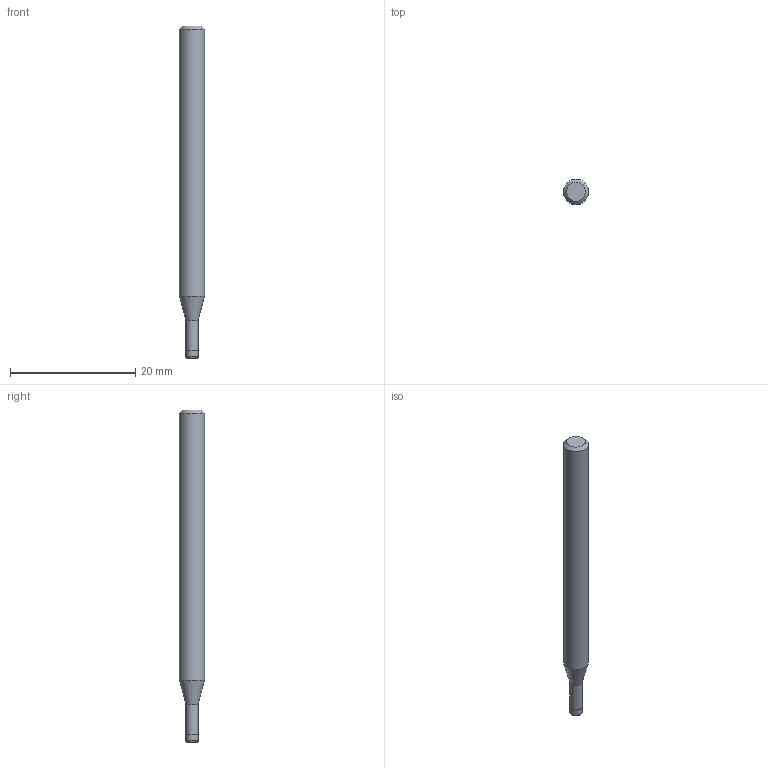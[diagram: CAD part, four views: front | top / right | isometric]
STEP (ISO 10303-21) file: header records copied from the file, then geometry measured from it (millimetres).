
FILE_DESCRIPTION((''),'2;1');
FILE_NAME('C:\Users\nsx150\AppData\Local\Temp\Mastercam 2021\LJSIDMOTM8\TEMP.step','2021-08-03T14:06:00',(''),(''),'STEP Write','Mastercam 2021 ... CNC Software, Inc.','');
FILE_SCHEMA(('AUTOMOTIVE_DESIGN'));
Length unit declared in the file: millimetre
Products named in the file (1): None
Bounding box: 4 x 4 x 53 mm (x, y, z)
Volume: 586.5 mm3; surface area: 633.5 mm2
Topology: 2 solids, 2 shells, 10 faces, 14 edges, 8 vertices
Faces by surface type: plane 4, cylinder 3, cone 2, torus 1
Full cylindrical faces by diameter (mm): 1.94 x1, 2 x1, 4 x1
Entity records: 232 total; most frequent: DIRECTION 40, CARTESIAN_POINT 28, AXIS2_PLACEMENT_3D 20, ORIENTED_EDGE 16, EDGE_LOOP 16, STYLED_ITEM 13, ADVANCED_FACE 10, FACE_BOUND 10
